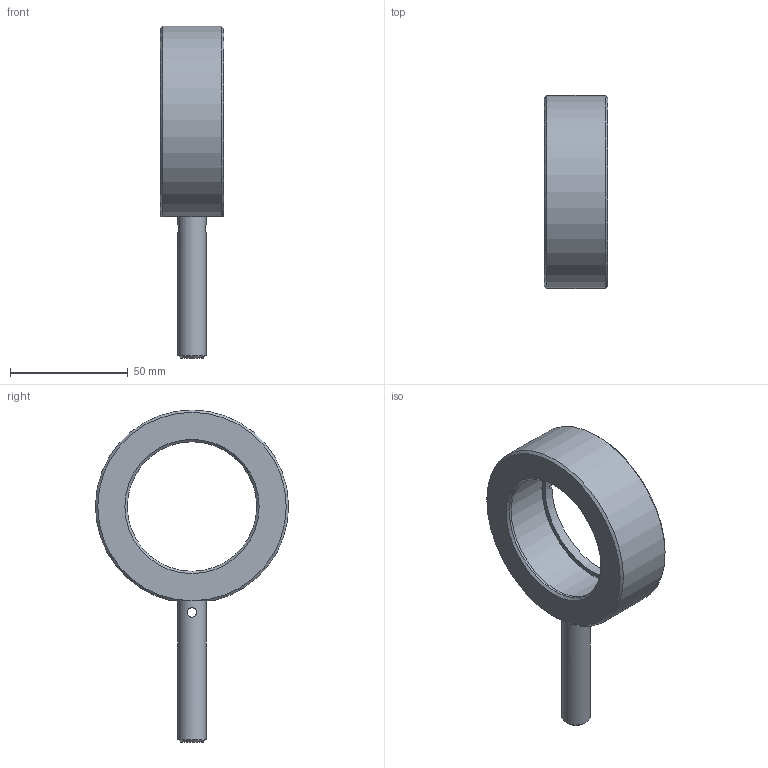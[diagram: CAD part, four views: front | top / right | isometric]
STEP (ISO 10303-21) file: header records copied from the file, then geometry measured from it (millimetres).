
FILE_DESCRIPTION((''),'2;1');
FILE_NAME('S:\1規格品図面ﾃﾞｰﾀ\OpticalHard\01_国内製品\2_Holders\LHF\LHF-60A\LHF-60A.stp','2007-01-19T16:35:48',('shimizu'),(''),'Autodesk Inventor 11','Autodesk Inventor 11','');
FILE_SCHEMA(('AUTOMOTIVE_DESIGN { 1 0 10303 214 1 1 1 1 }'));
Length unit declared in the file: millimetre
Products named in the file (1): LHF-60A-C1-S01
Bounding box: 27 x 81.97 x 141 mm (x, y, z)
Volume: 74624.6 mm3; surface area: 20612.5 mm2
Topology: 3 solids, 3 shells, 31 faces, 66 edges, 43 vertices
Faces by surface type: plane 13, bspline 9, cylinder 5, cone 4
Full cylindrical faces by diameter (mm): 4 x1, 5 x1, 12 x1, 56 x1
Entity records: 994 total; most frequent: CARTESIAN_POINT 381, DIRECTION 118, ORIENTED_EDGE 102, EDGE_CURVE 51, AXIS2_PLACEMENT_3D 50, EDGE_LOOP 50, VERTEX_POINT 39, FACE_OUTER_BOUND 31
